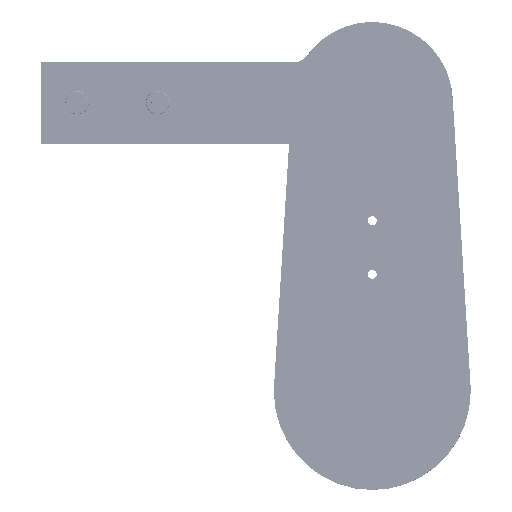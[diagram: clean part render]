
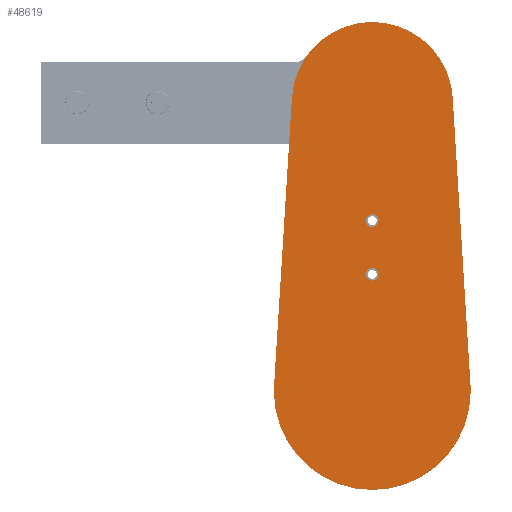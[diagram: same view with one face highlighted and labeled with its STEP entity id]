
A CAD part, top view. The second image highlights one B-rep face of the part: STEP entity #48619.
In plain terms, the highlighted planar face has unit normal (0, 0, 1) as drawn and (0, 0, -1) by its records, which use the part's own axes.
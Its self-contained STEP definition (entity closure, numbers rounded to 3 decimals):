
#1633 = CARTESIAN_POINT ( 'NONE',  ( 0., 0., 0. ) ) ;
#1780 = FACE_OUTER_BOUND ( 'NONE', #55348, .T. ) ;
#2133 = EDGE_CURVE ( 'NONE', #32598, #3044, #16582, .T. ) ;
#3044 = VERTEX_POINT ( 'NONE', #33423 ) ;
#3828 = VERTEX_POINT ( 'NONE', #75505 ) ;
#5109 = AXIS2_PLACEMENT_3D ( 'NONE', #21381, #52597, #53412 ) ;
#7761 = CARTESIAN_POINT ( 'NONE',  ( 54.894, 3.406, 0. ) ) ;
#8113 = CIRCLE ( 'NONE', #35545, 45. ) ;
#8288 = CARTESIAN_POINT ( 'NONE',  ( -55., 0., 0. ) ) ;
#8600 = ORIENTED_EDGE ( 'NONE', *, *, #80141, .F. ) ;
#11943 = DIRECTION ( 'NONE',  ( 1., 0., 0. ) ) ;
#12286 = DIRECTION ( 'NONE',  ( 1., 0., 0. ) ) ;
#12836 = AXIS2_PLACEMENT_3D ( 'NONE', #28488, #16355, #79541 ) ;
#13675 = ORIENTED_EDGE ( 'NONE', *, *, #70862, .F. ) ;
#14581 = DIRECTION ( 'NONE',  ( 1., 0., 0. ) ) ;
#15198 = ORIENTED_EDGE ( 'NONE', *, *, #17269, .F. ) ;
#15634 = VECTOR ( 'NONE', #58343, 1000. ) ;
#16355 = DIRECTION ( 'NONE',  ( 0., 0., -1. ) ) ;
#16582 = LINE ( 'NONE', #32884, #15634 ) ;
#17269 = EDGE_CURVE ( 'NONE', #19412, #81334, #43538, .T. ) ;
#19412 = VERTEX_POINT ( 'NONE', #23874 ) ;
#19769 = CIRCLE ( 'NONE', #12836, 3.5 ) ;
#21381 = CARTESIAN_POINT ( 'NONE',  ( 0., 161.5, 0. ) ) ;
#22601 = ORIENTED_EDGE ( 'NONE', *, *, #31773, .F. ) ;
#23874 = CARTESIAN_POINT ( 'NONE',  ( -54.894, 3.406, 0. ) ) ;
#24563 = EDGE_CURVE ( 'NONE', #81817, #32598, #35522, .T. ) ;
#25068 = ORIENTED_EDGE ( 'NONE', *, *, #35008, .F. ) ;
#25480 = CARTESIAN_POINT ( 'NONE',  ( 0., 95.5, 0. ) ) ;
#27952 = ORIENTED_EDGE ( 'NONE', *, *, #24563, .F. ) ;
#28488 = CARTESIAN_POINT ( 'NONE',  ( 0., 95.5, 0. ) ) ;
#30741 = DIRECTION ( 'NONE',  ( 0., 0., -1. ) ) ;
#31758 = VERTEX_POINT ( 'NONE', #65773 ) ;
#31773 = EDGE_CURVE ( 'NONE', #32619, #19412, #35942, .T. ) ;
#32272 = DIRECTION ( 'NONE',  ( 1., 0., 0. ) ) ;
#32598 = VERTEX_POINT ( 'NONE', #7761 ) ;
#32619 = VERTEX_POINT ( 'NONE', #58263 ) ;
#32821 = CARTESIAN_POINT ( 'NONE',  ( 3.5, 95.5, 0. ) ) ;
#32884 = CARTESIAN_POINT ( 'NONE',  ( 44.914, 164.286, 0. ) ) ;
#33219 = ORIENTED_EDGE ( 'NONE', *, *, #56974, .F. ) ;
#33423 = CARTESIAN_POINT ( 'NONE',  ( 44.914, 164.286, 0. ) ) ;
#34194 = DIRECTION ( 'NONE',  ( 1., 0., 0. ) ) ;
#34565 = DIRECTION ( 'NONE',  ( 1., 0., 0. ) ) ;
#35008 = EDGE_CURVE ( 'NONE', #3828, #58532, #68111, .T. ) ;
#35269 = DIRECTION ( 'NONE',  ( 0., 0., -1. ) ) ;
#35522 = CIRCLE ( 'NONE', #41698, 55. ) ;
#35545 = AXIS2_PLACEMENT_3D ( 'NONE', #56613, #76174, #32272 ) ;
#35942 = LINE ( 'NONE', #65251, #69593 ) ;
#36349 = AXIS2_PLACEMENT_3D ( 'NONE', #72047, #35269, #34194 ) ;
#38580 = AXIS2_PLACEMENT_3D ( 'NONE', #1633, #46511, #14581 ) ;
#40035 = EDGE_LOOP ( 'NONE', ( #53371, #33219 ) ) ;
#41679 = AXIS2_PLACEMENT_3D ( 'NONE', #59202, #47252, #72150 ) ;
#41698 = AXIS2_PLACEMENT_3D ( 'NONE', #68779, #49702, #11943 ) ;
#43089 = FACE_BOUND ( 'NONE', #40035, .T. ) ;
#43538 = CIRCLE ( 'NONE', #41679, 55. ) ;
#46511 = DIRECTION ( 'NONE',  ( 0., 0., 1. ) ) ;
#46796 = AXIS2_PLACEMENT_3D ( 'NONE', #25480, #30741, #12286 ) ;
#47252 = DIRECTION ( 'NONE',  ( 0., 0., 1. ) ) ;
#48619 = ADVANCED_FACE ( 'NONE', ( #76709, #43089, #1780 ), #53664, .F. ) ;
#49393 = ORIENTED_EDGE ( 'NONE', *, *, #59592, .F. ) ;
#49702 = DIRECTION ( 'NONE',  ( 0., 0., 1. ) ) ;
#52494 = AXIS2_PLACEMENT_3D ( 'NONE', #59448, #66927, #34565 ) ;
#52597 = DIRECTION ( 'NONE',  ( 0., 0., 1. ) ) ;
#53371 = ORIENTED_EDGE ( 'NONE', *, *, #59653, .F. ) ;
#53412 = DIRECTION ( 'NONE',  ( 1., 0., 0. ) ) ;
#53664 = PLANE ( 'NONE',  #5109 ) ;
#55348 = EDGE_LOOP ( 'NONE', ( #8600, #72658, #27952, #13675, #15198, #22601 ) ) ;
#56613 = CARTESIAN_POINT ( 'NONE',  ( 0., 161.5, 0. ) ) ;
#56974 = EDGE_CURVE ( 'NONE', #31758, #77129, #77979, .T. ) ;
#58149 = CARTESIAN_POINT ( 'NONE',  ( 55., 0., 0. ) ) ;
#58263 = CARTESIAN_POINT ( 'NONE',  ( -44.914, 164.286, 0. ) ) ;
#58343 = DIRECTION ( 'NONE',  ( -0.062, 0.998, 0. ) ) ;
#58428 = CARTESIAN_POINT ( 'NONE',  ( 3.5, 65.5, 0. ) ) ;
#58532 = VERTEX_POINT ( 'NONE', #32821 ) ;
#59202 = CARTESIAN_POINT ( 'NONE',  ( 0., 0., 0. ) ) ;
#59301 = CIRCLE ( 'NONE', #52494, 3.5 ) ;
#59407 = DIRECTION ( 'NONE',  ( -0.062, -0.998, 0. ) ) ;
#59448 = CARTESIAN_POINT ( 'NONE',  ( 0., 65.5, 0. ) ) ;
#59592 = EDGE_CURVE ( 'NONE', #58532, #3828, #19769, .T. ) ;
#59653 = EDGE_CURVE ( 'NONE', #77129, #31758, #59301, .T. ) ;
#65251 = CARTESIAN_POINT ( 'NONE',  ( -44.914, 164.286, 0. ) ) ;
#65773 = CARTESIAN_POINT ( 'NONE',  ( -3.5, 65.5, 0. ) ) ;
#66927 = DIRECTION ( 'NONE',  ( 0., 0., -1. ) ) ;
#68111 = CIRCLE ( 'NONE', #46796, 3.5 ) ;
#68779 = CARTESIAN_POINT ( 'NONE',  ( 0., 0., 0. ) ) ;
#69593 = VECTOR ( 'NONE', #59407, 1000. ) ;
#70862 = EDGE_CURVE ( 'NONE', #81334, #81817, #72610, .T. ) ;
#72047 = CARTESIAN_POINT ( 'NONE',  ( 0., 65.5, 0. ) ) ;
#72150 = DIRECTION ( 'NONE',  ( 1., 0., 0. ) ) ;
#72610 = CIRCLE ( 'NONE', #38580, 55. ) ;
#72658 = ORIENTED_EDGE ( 'NONE', *, *, #2133, .F. ) ;
#75505 = CARTESIAN_POINT ( 'NONE',  ( -3.5, 95.5, 0. ) ) ;
#76174 = DIRECTION ( 'NONE',  ( 0., 0., 1. ) ) ;
#76709 = FACE_BOUND ( 'NONE', #80448, .T. ) ;
#77129 = VERTEX_POINT ( 'NONE', #58428 ) ;
#77979 = CIRCLE ( 'NONE', #36349, 3.5 ) ;
#79541 = DIRECTION ( 'NONE',  ( 1., 0., 0. ) ) ;
#80141 = EDGE_CURVE ( 'NONE', #3044, #32619, #8113, .T. ) ;
#80448 = EDGE_LOOP ( 'NONE', ( #49393, #25068 ) ) ;
#81334 = VERTEX_POINT ( 'NONE', #8288 ) ;
#81817 = VERTEX_POINT ( 'NONE', #58149 ) ;
